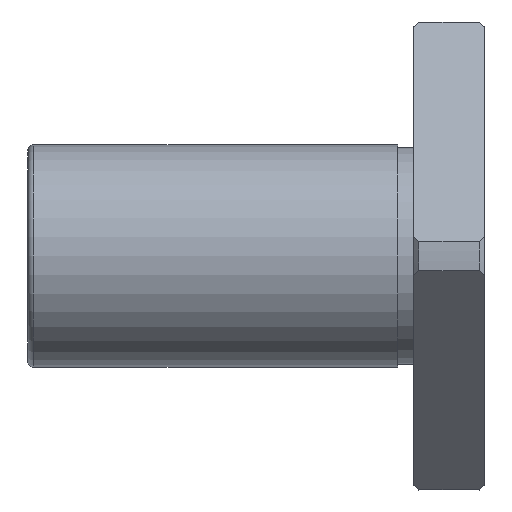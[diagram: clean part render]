
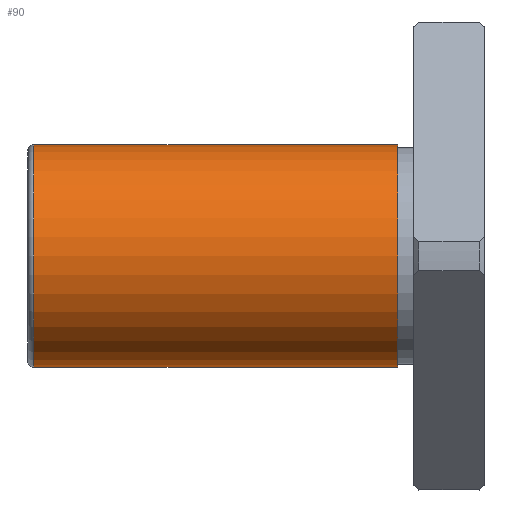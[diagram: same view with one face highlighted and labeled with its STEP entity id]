
A CAD part, front view. The second image highlights one B-rep face of the part: STEP entity #90.
In plain terms, the highlighted cylindrical face has radius 9.5 mm (diameter 19 mm), a full revolution.
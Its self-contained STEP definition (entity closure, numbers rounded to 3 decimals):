
#90=ADVANCED_FACE('',(#153,#154),#155,.T.);
#153=FACE_OUTER_BOUND('',#253,.T.);
#154=FACE_OUTER_BOUND('',#254,.T.);
#155=CYLINDRICAL_SURFACE('',#255,9.5);
#253=EDGE_LOOP('',(#426));
#254=EDGE_LOOP('',(#427));
#255=AXIS2_PLACEMENT_3D('',#428,#429,#430);
#426=ORIENTED_EDGE('',*,*,#616,.T.);
#427=ORIENTED_EDGE('',*,*,#617,.T.);
#428=CARTESIAN_POINT('',(-17.95,0.0,0.));
#429=DIRECTION('',(-1.0,-0.0,0.));
#430=DIRECTION('',(0.0,1.0,0.0));
#616=EDGE_CURVE('',#731,#731,#732,.F.);
#617=EDGE_CURVE('',#733,#733,#734,.T.);
#731=VERTEX_POINT('',#1005);
#732=CIRCLE('',#1006,9.5);
#733=VERTEX_POINT('',#1007);
#734=CIRCLE('',#1008,9.5);
#1005=CARTESIAN_POINT('',(-38.5,0.,9.5));
#1006=AXIS2_PLACEMENT_3D('',#1136,#1137,#1138);
#1007=CARTESIAN_POINT('',(-7.4,9.5,0.0));
#1008=AXIS2_PLACEMENT_3D('',#1139,#1140,#1141);
#1136=CARTESIAN_POINT('',(-38.5,0.0,0.));
#1137=DIRECTION('',(-1.0,0.0,0.));
#1138=DIRECTION('',(0.,0.0,1.0));
#1139=CARTESIAN_POINT('',(-7.4,0.0,0.0));
#1140=DIRECTION('',(-1.0,0.0,0.));
#1141=DIRECTION('',(0.0,1.0,0.0));
